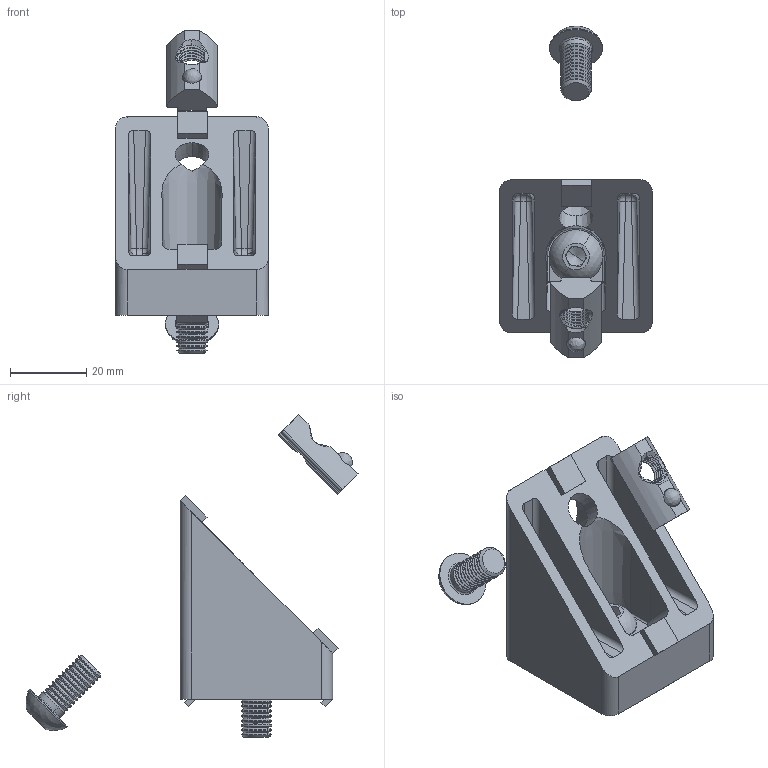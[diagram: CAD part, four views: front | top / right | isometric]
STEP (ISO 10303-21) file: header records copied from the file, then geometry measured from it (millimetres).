
FILE_DESCRIPTION (( 'STEP AP203' ), '1' );
FILE_NAME ('351300_45° Verbinder 40x40 mit Bef.-Satz.step', '2023-09-06T11:40:42', ( '' ), ( '' ), 'SwSTEP 2.0', 'SolidWorks 2021', '' );
FILE_SCHEMA (( 'CONFIG_CONTROL_DESIGN' ));
Length unit declared in the file: millimetre
Products named in the file (5): 355050 Nutenstein 8 M8 einschwenkbar mit Kugel und Steg; 351300_45° Verbinder 40x40 mit Bef.-Satz; 99900471 45°-Verbinder 40x40; 370170 Schraube, Linsenkopf, ISO 7380, M8x16, 10.9 verzinkt; 370190 Schraube, Linsenkopf, ISO 7380, M8x20, 10.9 verzinkt
Assembly tree (4 placements, depth 2):
  351300_45° Verbinder 40x40 mit Bef.-Satz
    99900471 45°-Verbinder 40x40
    370170 Schraube, Linsenkopf, ISO 7380, M8x16, 10.9 verzinkt
    370190 Schraube, Linsenkopf, ISO 7380, M8x20, 10.9 verzinkt
    355050 Nutenstein 8 M8 einschwenkbar mit Kugel und Steg
Bounding box: 40 x 87.02 x 84.6 mm (x, y, z)
Volume: 36977.1 mm3; surface area: 17022.1 mm2
Topology: 4 solids, 5 shells, 385 faces, 991 edges, 619 vertices
Faces by surface type: cylinder 128, cone 120, plane 97, bspline 32, torus 4, sphere 4
Entity records: 16727 total; most frequent: CARTESIAN_POINT 7019, ORIENTED_EDGE 1974, DIRECTION 1959, EDGE_CURVE 987, AXIS2_PLACEMENT_3D 760, VERTEX_POINT 619, LINE 439, VECTOR 439
